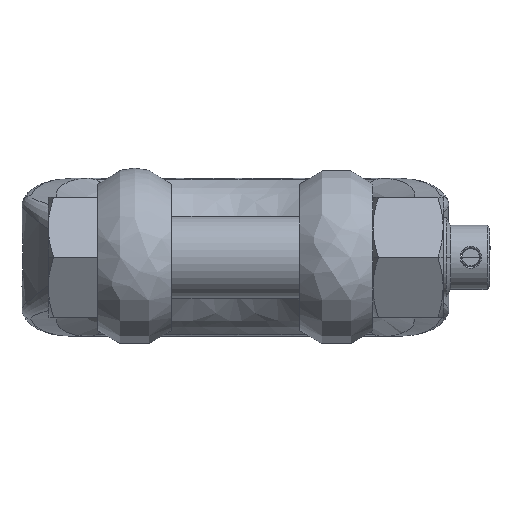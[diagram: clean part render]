
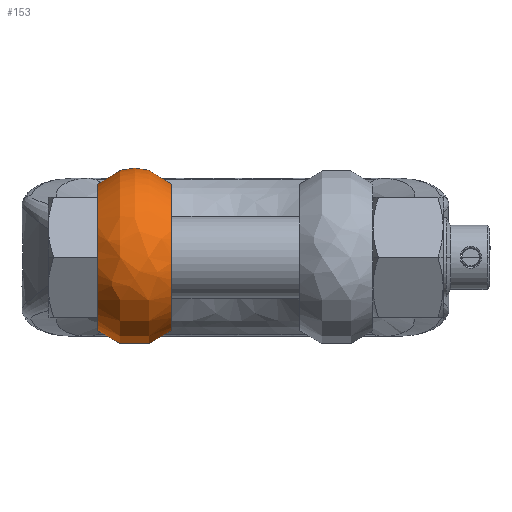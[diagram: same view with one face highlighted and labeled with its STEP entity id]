
A CAD part, front view. The second image highlights one B-rep face of the part: STEP entity #153.
In plain terms, the highlighted free-form (B-spline) face has degree [3, 3] with [4, 7] control points.
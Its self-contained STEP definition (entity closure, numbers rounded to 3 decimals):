
#153=ADVANCED_FACE('',(#833),#834,.T.);
#833=FACE_OUTER_BOUND('',#10434,.T.);
#834=(B_SPLINE_SURFACE(3,3,((#10436,#10437,#10438,#10439,#10440,#10441,#10442),(#10443,#10444,#10445,#10446,#10447,#10448,#10449),(#10450,#10451,#10452,#10453,#10454,#10455,#10456),(#10457,#10458,#10459,#10460,#10461,#10462,#10463)),.UNSPECIFIED.,.F.,.F.,.F.)B_SPLINE_SURFACE_WITH_KNOTS((4,4),(4,3,4),(0.0,1.0),(0.0,0.5,1.0),.UNSPECIFIED.)RATIONAL_B_SPLINE_SURFACE(((1.0,0.615,0.615,1.0,0.615,0.615,1.0),(0.785,0.483,0.483,0.785,0.483,0.483,0.785),(0.785,0.483,0.483,0.785,0.483,0.483,0.785),(1.0,0.615,0.615,1.0,0.615,0.615,1.0)))BOUNDED_SURFACE()REPRESENTATION_ITEM('')GEOMETRIC_REPRESENTATION_ITEM()SURFACE());
#10434=EDGE_LOOP('',(#25819,#25820,#25821,#25822));
#10436=CARTESIAN_POINT('',(-22.0,16.086,19.166));
#10437=CARTESIAN_POINT('',(-22.0,-2.742,34.969));
#10438=CARTESIAN_POINT('',(-22.0,-25.022,24.582));
#10439=CARTESIAN_POINT('',(-22.0,-25.022,0.));
#10440=CARTESIAN_POINT('',(-22.0,-25.022,-24.582));
#10441=CARTESIAN_POINT('',(-22.0,-2.742,-34.969));
#10442=CARTESIAN_POINT('',(-22.0,16.086,-19.166));
#10443=CARTESIAN_POINT('',(-29.193,21.103,25.143));
#10444=CARTESIAN_POINT('',(-29.193,-3.598,45.875));
#10445=CARTESIAN_POINT('',(-29.193,-32.826,32.249));
#10446=CARTESIAN_POINT('',(-29.193,-32.826,0.));
#10447=CARTESIAN_POINT('',(-29.193,-32.826,-32.249));
#10448=CARTESIAN_POINT('',(-29.193,-3.598,-45.875));
#10449=CARTESIAN_POINT('',(-29.193,21.103,-25.143));
#10450=CARTESIAN_POINT('',(-39.807,21.103,25.143));
#10451=CARTESIAN_POINT('',(-39.807,-3.598,45.875));
#10452=CARTESIAN_POINT('',(-39.807,-32.826,32.249));
#10453=CARTESIAN_POINT('',(-39.807,-32.826,0.));
#10454=CARTESIAN_POINT('',(-39.807,-32.826,-32.249));
#10455=CARTESIAN_POINT('',(-39.807,-3.598,-45.875));
#10456=CARTESIAN_POINT('',(-39.807,21.103,-25.143));
#10457=CARTESIAN_POINT('',(-47.0,16.086,19.166));
#10458=CARTESIAN_POINT('',(-47.0,-2.742,34.969));
#10459=CARTESIAN_POINT('',(-47.0,-25.022,24.582));
#10460=CARTESIAN_POINT('',(-47.0,-25.022,0.));
#10461=CARTESIAN_POINT('',(-47.0,-25.022,-24.582));
#10462=CARTESIAN_POINT('',(-47.0,-2.742,-34.969));
#10463=CARTESIAN_POINT('',(-47.0,16.086,-19.166));
#25819=ORIENTED_EDGE('',*,*,#30092,.F.);
#25820=ORIENTED_EDGE('',*,*,#30103,.T.);
#25821=ORIENTED_EDGE('',*,*,#30046,.T.);
#25822=ORIENTED_EDGE('',*,*,#30104,.T.);
#30046=EDGE_CURVE('',#31749,#31758,#31760,.T.);
#30092=EDGE_CURVE('',#31833,#31835,#31836,.T.);
#30103=EDGE_CURVE('',#31833,#31749,#31852,.T.);
#30104=EDGE_CURVE('',#31758,#31835,#31853,.T.);
#31749=VERTEX_POINT('',#36529);
#31758=VERTEX_POINT('',#36745);
#31760=(B_SPLINE_CURVE(3,(#36774,#36775,#36776,#36777),.UNSPECIFIED.,.F.,.F.)B_SPLINE_CURVE_WITH_KNOTS((4,4),(0.0,1.0),.UNSPECIFIED.)RATIONAL_B_SPLINE_CURVE((1.0,0.785,0.785,1.0))BOUNDED_CURVE()REPRESENTATION_ITEM('')GEOMETRIC_REPRESENTATION_ITEM()CURVE());
#31833=VERTEX_POINT('',#39310);
#31835=VERTEX_POINT('',#39348);
#31836=B_SPLINE_CURVE_WITH_KNOTS('',3,(#39349,#39350,#39351,#39352,#39353,#39354,#39355,#39356,#39357,#39358,#39359,#39360,#39361,#39362,#39363,#39364,#39365,#39366,#39367,#39368,#39369,#39370),.UNSPECIFIED.,.F.,.F.,(4,1,1,1,2,1,1,1,2,1,1,1,2,1,1,1,4),(0.0,0.107,0.214,0.321,0.428,0.446,0.464,0.482,0.5,0.518,0.536,0.554,0.572,0.679,0.786,0.893,1.0),.UNSPECIFIED.);
#31852=(B_SPLINE_CURVE(3,(#39820,#39821,#39822,#39823,#39824,#39825,#39826),.UNSPECIFIED.,.F.,.F.)B_SPLINE_CURVE_WITH_KNOTS((4,3,4),(0.0,0.5,1.0),.UNSPECIFIED.)RATIONAL_B_SPLINE_CURVE((1.0,0.615,0.615,1.0,0.615,0.615,1.0))BOUNDED_CURVE()REPRESENTATION_ITEM('')GEOMETRIC_REPRESENTATION_ITEM()CURVE());
#31853=(B_SPLINE_CURVE(3,(#39834,#39835,#39836,#39837,#39838,#39839,#39840),.UNSPECIFIED.,.F.,.F.)B_SPLINE_CURVE_WITH_KNOTS((4,3,4),(0.0,0.5,1.0),.UNSPECIFIED.)RATIONAL_B_SPLINE_CURVE((1.0,0.615,0.615,1.0,0.615,0.615,1.0))BOUNDED_CURVE()REPRESENTATION_ITEM('')GEOMETRIC_REPRESENTATION_ITEM()CURVE());
#36529=CARTESIAN_POINT('',(-22.0,16.086,19.166));
#36745=CARTESIAN_POINT('',(-47.0,16.086,19.166));
#36774=CARTESIAN_POINT('',(-22.0,16.086,19.166));
#36775=CARTESIAN_POINT('',(-29.193,21.103,25.143));
#36776=CARTESIAN_POINT('',(-39.807,21.103,25.143));
#36777=CARTESIAN_POINT('',(-47.0,16.086,19.166));
#39310=CARTESIAN_POINT('',(-22.0,16.086,-19.166));
#39348=CARTESIAN_POINT('',(-47.0,16.086,-19.166));
#39349=CARTESIAN_POINT('',(-22.0,16.086,-19.166));
#39350=CARTESIAN_POINT('',(-22.671,16.555,-19.724));
#39351=CARTESIAN_POINT('',(-24.142,17.416,-20.749));
#39352=CARTESIAN_POINT('',(-26.667,18.442,-21.973));
#39353=CARTESIAN_POINT('',(-29.44,19.172,-22.842));
#39354=CARTESIAN_POINT('',(-31.401,19.444,-23.167));
#39355=CARTESIAN_POINT('',(-32.563,19.538,-23.278));
#39356=CARTESIAN_POINT('',(-32.904,19.562,-23.306));
#39357=CARTESIAN_POINT('',(-33.433,19.588,-23.338));
#39358=CARTESIAN_POINT('',(-33.969,19.605,-23.358));
#39359=CARTESIAN_POINT('',(-34.324,19.608,-23.362));
#39360=CARTESIAN_POINT('',(-34.676,19.608,-23.362));
#39361=CARTESIAN_POINT('',(-35.031,19.605,-23.358));
#39362=CARTESIAN_POINT('',(-35.567,19.588,-23.338));
#39363=CARTESIAN_POINT('',(-36.096,19.562,-23.306));
#39364=CARTESIAN_POINT('',(-36.437,19.538,-23.278));
#39365=CARTESIAN_POINT('',(-37.599,19.444,-23.167));
#39366=CARTESIAN_POINT('',(-39.56,19.172,-22.842));
#39367=CARTESIAN_POINT('',(-42.333,18.442,-21.973));
#39368=CARTESIAN_POINT('',(-44.858,17.416,-20.749));
#39369=CARTESIAN_POINT('',(-46.329,16.555,-19.724));
#39370=CARTESIAN_POINT('',(-47.0,16.086,-19.166));
#39820=CARTESIAN_POINT('',(-22.0,16.086,-19.166));
#39821=CARTESIAN_POINT('',(-22.0,-2.742,-34.969));
#39822=CARTESIAN_POINT('',(-22.0,-25.022,-24.582));
#39823=CARTESIAN_POINT('',(-22.0,-25.022,0.));
#39824=CARTESIAN_POINT('',(-22.0,-25.022,24.582));
#39825=CARTESIAN_POINT('',(-22.0,-2.742,34.969));
#39826=CARTESIAN_POINT('',(-22.0,16.086,19.166));
#39834=CARTESIAN_POINT('',(-47.0,16.086,19.166));
#39835=CARTESIAN_POINT('',(-47.0,-2.742,34.969));
#39836=CARTESIAN_POINT('',(-47.0,-25.022,24.582));
#39837=CARTESIAN_POINT('',(-47.0,-25.022,0.));
#39838=CARTESIAN_POINT('',(-47.0,-25.022,-24.582));
#39839=CARTESIAN_POINT('',(-47.0,-2.742,-34.969));
#39840=CARTESIAN_POINT('',(-47.0,16.086,-19.166));
